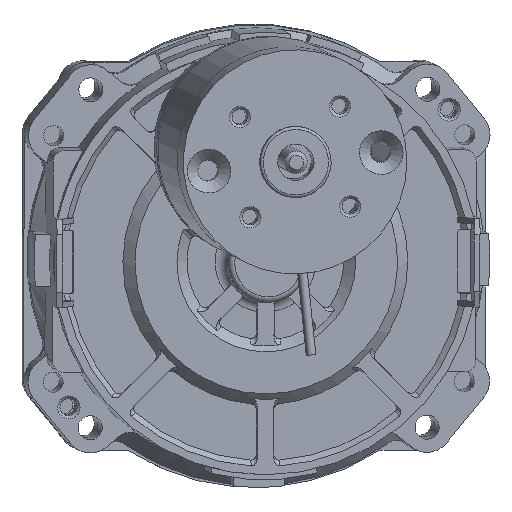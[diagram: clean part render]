
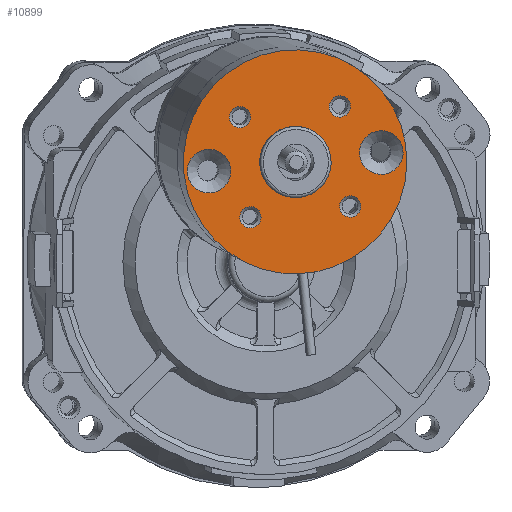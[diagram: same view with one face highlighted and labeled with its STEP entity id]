
A CAD part, top view. The second image highlights one B-rep face of the part: STEP entity #10899.
In plain terms, the highlighted planar face has unit normal (0.085, -0.045, 0.995) as drawn and (0, 0, 1) by its records, which use the part's own axes.
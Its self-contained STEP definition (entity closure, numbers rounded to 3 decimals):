
#643=FACE_BOUND('',#2385,.T.);
#644=FACE_BOUND('',#2386,.T.);
#645=FACE_BOUND('',#2387,.T.);
#646=FACE_BOUND('',#2388,.T.);
#647=FACE_BOUND('',#2389,.T.);
#648=FACE_BOUND('',#2390,.T.);
#649=FACE_BOUND('',#2391,.T.);
#1532=FACE_OUTER_BOUND('',#2384,.T.);
#2384=EDGE_LOOP('',(#9874));
#2385=EDGE_LOOP('',(#9875));
#2386=EDGE_LOOP('',(#9876));
#2387=EDGE_LOOP('',(#9877));
#2388=EDGE_LOOP('',(#9878));
#2389=EDGE_LOOP('',(#9879));
#2390=EDGE_LOOP('',(#9880));
#2391=EDGE_LOOP('',(#9881));
#4289=CIRCLE('',#12101,3.9);
#4292=CIRCLE('',#12106,3.9);
#4296=CIRCLE('',#12112,1.9);
#4297=CIRCLE('',#12114,20.);
#4298=CIRCLE('',#12115,1.9);
#4299=CIRCLE('',#12116,1.9);
#4300=CIRCLE('',#12117,6.35);
#4301=CIRCLE('',#12118,1.9);
#5348=VERTEX_POINT('',#20606);
#5351=VERTEX_POINT('',#20614);
#5355=VERTEX_POINT('',#20624);
#5356=VERTEX_POINT('',#20627);
#5357=VERTEX_POINT('',#20629);
#5358=VERTEX_POINT('',#20631);
#5359=VERTEX_POINT('',#20633);
#5360=VERTEX_POINT('',#20635);
#6862=EDGE_CURVE('',#5348,#5348,#4289,.T.);
#6865=EDGE_CURVE('',#5351,#5351,#4292,.T.);
#6869=EDGE_CURVE('',#5355,#5355,#4296,.T.);
#6870=EDGE_CURVE('',#5356,#5356,#4297,.T.);
#6871=EDGE_CURVE('',#5357,#5357,#4298,.T.);
#6872=EDGE_CURVE('',#5358,#5358,#4299,.T.);
#6873=EDGE_CURVE('',#5359,#5359,#4300,.T.);
#6874=EDGE_CURVE('',#5360,#5360,#4301,.T.);
#9874=ORIENTED_EDGE('',*,*,#6870,.F.);
#9875=ORIENTED_EDGE('',*,*,#6862,.T.);
#9876=ORIENTED_EDGE('',*,*,#6865,.T.);
#9877=ORIENTED_EDGE('',*,*,#6871,.F.);
#9878=ORIENTED_EDGE('',*,*,#6872,.F.);
#9879=ORIENTED_EDGE('',*,*,#6873,.T.);
#9880=ORIENTED_EDGE('',*,*,#6874,.F.);
#9881=ORIENTED_EDGE('',*,*,#6869,.F.);
#10266=PLANE('',#12113);
#10899=ADVANCED_FACE('',(#1532,#643,#644,#645,#646,#647,#648,#649),#10266,
 .F.);
#12101=AXIS2_PLACEMENT_3D('',#20607,#15157,#15158);
#12106=AXIS2_PLACEMENT_3D('',#20615,#15167,#15168);
#12112=AXIS2_PLACEMENT_3D('',#20625,#15179,#15180);
#12113=AXIS2_PLACEMENT_3D('',#20626,#15181,#15182);
#12114=AXIS2_PLACEMENT_3D('',#20628,#15183,#15184);
#12115=AXIS2_PLACEMENT_3D('',#20630,#15185,#15186);
#12116=AXIS2_PLACEMENT_3D('',#20632,#15187,#15188);
#12117=AXIS2_PLACEMENT_3D('',#20634,#15189,#15190);
#12118=AXIS2_PLACEMENT_3D('',#20636,#15191,#15192);
#15157=DIRECTION('center_axis',(0.,0.,-1.));
#15158=DIRECTION('ref_axis',(-1.,0.,0.));
#15167=DIRECTION('center_axis',(0.,0.,-1.));
#15168=DIRECTION('ref_axis',(1.,0.,0.));
#15179=DIRECTION('center_axis',(0.,0.,1.));
#15180=DIRECTION('ref_axis',(0.,-1.,0.));
#15181=DIRECTION('center_axis',(0.,0.,-1.));
#15182=DIRECTION('ref_axis',(-1.,0.,0.));
#15183=DIRECTION('center_axis',(0.,0.,-1.));
#15184=DIRECTION('ref_axis',(-1.,0.,0.));
#15185=DIRECTION('center_axis',(0.,0.,1.));
#15186=DIRECTION('ref_axis',(1.,0.,0.));
#15187=DIRECTION('center_axis',(0.,0.,1.));
#15188=DIRECTION('ref_axis',(-1.,0.,0.));
#15189=DIRECTION('center_axis',(0.,0.,-1.));
#15190=DIRECTION('ref_axis',(-1.,0.,0.));
#15191=DIRECTION('center_axis',(0.,0.,1.));
#15192=DIRECTION('ref_axis',(0.,1.,0.));
#20606=CARTESIAN_POINT('',(-19.4,0.,12.6));
#20607=CARTESIAN_POINT('Origin',(-15.5,0.,12.6));
#20614=CARTESIAN_POINT('',(19.4,0.,12.6));
#20615=CARTESIAN_POINT('Origin',(15.5,0.,12.6));
#20624=CARTESIAN_POINT('',(-8.98,10.88,12.6));
#20625=CARTESIAN_POINT('Origin',(-8.98,8.98,12.6));
#20626=CARTESIAN_POINT('Origin',(0.,0.,12.6));
#20627=CARTESIAN_POINT('',(20.,0.,12.6));
#20628=CARTESIAN_POINT('Origin',(0.,0.,12.6));
#20629=CARTESIAN_POINT('',(-10.88,-8.98,12.6));
#20630=CARTESIAN_POINT('Origin',(-8.98,-8.98,12.6));
#20631=CARTESIAN_POINT('',(10.88,8.98,12.6));
#20632=CARTESIAN_POINT('Origin',(8.98,8.98,12.6));
#20633=CARTESIAN_POINT('',(6.35,0.,12.6));
#20634=CARTESIAN_POINT('Origin',(0.,0.,12.6));
#20635=CARTESIAN_POINT('',(8.98,-10.88,12.6));
#20636=CARTESIAN_POINT('Origin',(8.98,-8.98,12.6));
